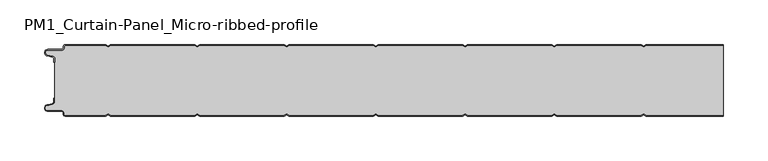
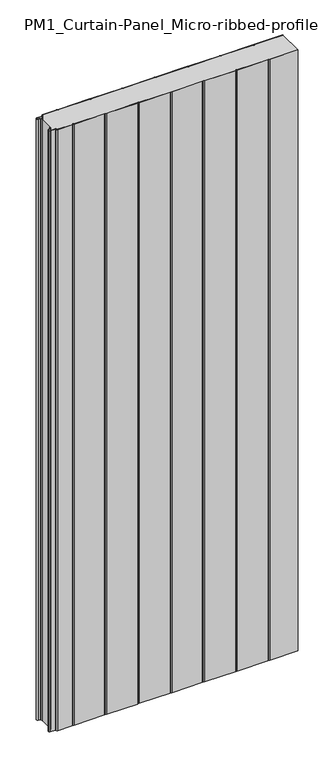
"""IFC4 building model written with IfcOpenShell, lengths in millimetres: plate geometry, PM1_Curtain-Panel_Micro-ribbed-profile : ACH_PM1_Stone-wool-Panel_80M."""

from ifc_helpers import new_model, si_unit, point, frame_2d, origin, origin_with_axes, place, context, project, spatial, polyline, circle_curve, trimmed, segment, composite_curve, outline, extrude, source, transform, mapped, element, save


def pm1_curtain_panel_micro_ribbed_profile_8fb5820e(model_context):
    return source(origin(), model_context, "Body", "SweptSolid", [
        extrude(outline(composite_curve([segment(trimmed(circle_curve(frame_2d((-377.0119739, -15.878557)), 2.0), [point((-375.0119739, -15.878557))], [point((-376.5620718, -13.9298169))], True, "CARTESIAN"), True, "CONTINUOUS"), segment(polyline([(-376.5620718, -13.9298169), (-382.7217978, -12.507732)]), True, "CONTINUOUS"), segment(trimmed(circle_curve(frame_2d((-381.9119739, -9.0)), 3.6), [point((-382.7217978, -12.507732))], [point((-381.9119739, -5.4))], False, "CARTESIAN"), True, "CONTINUOUS"), segment(polyline([(-381.9119739, -5.4), (-366.4119739, -5.4)]), True, "CONTINUOUS"), segment(trimmed(circle_curve(frame_2d((-366.4119739, -3.4)), 2.0), [point((-366.4119739, -5.4))], [point((-364.4119739, -3.4))], True, "CARTESIAN"), True, "CONTINUOUS"), segment(polyline([(-364.4119739, -3.4), (-364.4119739, -2.0)]), True, "CONTINUOUS"), segment(trimmed(circle_curve(frame_2d((-362.4119739, -2.0)), 2.0), [point((-364.4119739, -2.0))], [point((-362.4119739, 0.0))], False, "CARTESIAN"), True, "CONTINUOUS"), segment(polyline([(-362.4119739, 0.0), (-317.1119734, 0.0), (-314.4119739, -1.5588455), (-311.7119745, 0.0), (-217.1119734, 0.0), (-214.4119739, -1.5588455), (-211.7119745, 0.0), (-117.1119734, 0.0), (-114.4119739, -1.5588455), (-111.7119745, 0.0), (-17.1119734, 0.0), (-14.4119739, -1.5588455), (-11.7119745, 0.0), (82.8880266, 0.0), (85.5880261, -1.5588455), (88.2880255, 0.0), (182.8880266, 0.0), (185.5880261, -1.5588455), (188.2880255, 0.0), (282.8880266, 0.0), (285.5880261, -1.5588455), (288.2880255, 0.0), (375.0119739, 0.0), (375.0119739, -0.8), (288.5023849, -0.8), (285.5880261, -2.482606), (282.6736672, -0.8), (188.5023849, -0.8), (185.5880261, -2.482606), (182.6736672, -0.8), (88.5023849, -0.8), (85.5880261, -2.482606), (82.6736672, -0.8), (-11.4976151, -0.8), (-14.4119739, -2.482606), (-17.3263328, -0.8), (-111.4976151, -0.8), (-114.4119739, -2.482606), (-117.3263328, -0.8), (-211.4976151, -0.8), (-214.4119739, -2.482606), (-217.3263328, -0.8), (-311.4976151, -0.8), (-314.4119739, -2.482606), (-317.3263328, -0.8), (-362.4119739, -0.8)]), True, "CONTINUOUS"), segment(trimmed(circle_curve(frame_2d((-362.4119739, -2.0)), 1.2), [point((-362.4119739, -0.8))], [point((-363.6119739, -2.0))], True, "CARTESIAN"), True, "CONTINUOUS"), segment(polyline([(-363.6119739, -2.0), (-363.6119739, -3.4)]), True, "CONTINUOUS"), segment(trimmed(circle_curve(frame_2d((-366.4119739, -3.4)), 2.8), [point((-363.6119739, -3.4))], [point((-366.4119739, -6.2))], False, "CARTESIAN"), True, "CONTINUOUS"), segment(polyline([(-366.4119739, -6.2), (-381.9119739, -6.2)]), True, "CONTINUOUS"), segment(trimmed(circle_curve(frame_2d((-381.9119739, -9.0)), 2.8), [point((-381.9119739, -6.2))], [point((-382.541837, -11.7282362))], True, "CARTESIAN"), True, "CONTINUOUS"), segment(polyline([(-382.541837, -11.7282362), (-376.3821109, -13.150321)]), True, "CONTINUOUS"), segment(trimmed(circle_curve(frame_2d((-377.0119739, -15.878557)), 2.8), [point((-376.3821109, -13.150321))], [point((-374.2119739, -15.878557))], False, "CARTESIAN"), True, "CONTINUOUS"), segment(polyline([(-374.2119739, -15.878557), (-374.2119739, -20.0), (-375.0119739, -20.0), (-375.0119739, -15.878557)]), True, "CONTINUOUS")], self_intersect=False)), origin_with_axes(), (0.0, 0.0, 1.0), 1945.7507136),
        extrude(outline(composite_curve([segment(polyline([(-374.2119739, -64.1214426), (-374.2119739, -15.8785573)]), True, "CONTINUOUS"), segment(trimmed(circle_curve(frame_2d((-377.0119739, -15.8785573)), 2.8), [point((-374.2119739, -15.8785573))], [point((-376.3821109, -13.1503212))], True, "CARTESIAN"), True, "CONTINUOUS"), segment(polyline([(-376.3821109, -13.1503212), (-382.541837, -11.7282362)]), True, "CONTINUOUS"), segment(trimmed(circle_curve(frame_2d((-381.911974, -9.0)), 2.8), [point((-382.541837, -11.7282362))], [point((-381.911974, -6.2))], False, "CARTESIAN"), True, "CONTINUOUS"), segment(polyline([(-381.911974, -6.2), (-366.411974, -6.2)]), True, "CONTINUOUS"), segment(trimmed(circle_curve(frame_2d((-366.411974, -3.4)), 2.8), [point((-366.411974, -6.2))], [point((-363.611974, -3.4))], True, "CARTESIAN"), True, "CONTINUOUS"), segment(polyline([(-363.611974, -3.4), (-363.611974, -2.0)]), True, "CONTINUOUS"), segment(trimmed(circle_curve(frame_2d((-362.411974, -2.0)), 1.2), [point((-363.611974, -2.0))], [point((-362.411974, -0.8))], False, "CARTESIAN"), True, "CONTINUOUS"), segment(polyline([(-362.411974, -0.8), (-317.3263329, -0.8), (-314.411974, -2.482606), (-311.4976152, -0.8), (-217.3263329, -0.8), (-214.411974, -2.482606), (-211.4976152, -0.8), (-117.3263329, -0.8), (-114.411974, -2.482606), (-111.4976152, -0.8), (-17.3263329, -0.8), (-14.411974, -2.482606), (-11.4976152, -0.8), (82.6736671, -0.8), (85.588026, -2.482606), (88.5023848, -0.8), (182.6736671, -0.8), (185.588026, -2.482606), (188.5023848, -0.8), (282.6736671, -0.8), (285.588026, -2.482606), (288.5023848, -0.8), (375.0119739, -0.8), (375.0119739, -79.2), (288.5023848, -79.2), (285.588026, -77.517394), (282.6736671, -79.2), (188.5023848, -79.2), (185.588026, -77.517394), (182.6736671, -79.2), (88.5023848, -79.2), (85.588026, -77.517394), (82.6736671, -79.2), (-11.4976152, -79.2), (-14.411974, -77.517394), (-17.3263329, -79.2), (-111.4976152, -79.2), (-114.411974, -77.517394), (-117.3263329, -79.2), (-211.4976152, -79.2), (-214.411974, -77.517394), (-217.3263329, -79.2), (-311.4976152, -79.2), (-314.411974, -77.517394), (-317.3263329, -79.2), (-362.411974, -79.2)]), True, "CONTINUOUS"), segment(trimmed(circle_curve(frame_2d((-362.411974, -78.0)), 1.2), [point((-362.411974, -79.2))], [point((-363.611974, -78.0))], False, "CARTESIAN"), True, "CONTINUOUS"), segment(polyline([(-363.611974, -78.0), (-363.611974, -76.6)]), True, "CONTINUOUS"), segment(trimmed(circle_curve(frame_2d((-366.411974, -76.6)), 2.8), [point((-363.611974, -76.6))], [point((-366.411974, -73.8))], True, "CARTESIAN"), True, "CONTINUOUS"), segment(polyline([(-366.411974, -73.8), (-381.911974, -73.8)]), True, "CONTINUOUS"), segment(trimmed(circle_curve(frame_2d((-381.911974, -71.0)), 2.8), [point((-381.911974, -73.8))], [point((-382.541837, -68.2717638))], False, "CARTESIAN"), True, "CONTINUOUS"), segment(polyline([(-382.541837, -68.2717638), (-376.3821109, -66.8496788)]), True, "CONTINUOUS"), segment(trimmed(circle_curve(frame_2d((-377.0119739, -64.1214426)), 2.8), [point((-376.3821109, -66.8496788))], [point((-374.2119739, -64.1214426))], True, "CARTESIAN"), True, "CONTINUOUS")], self_intersect=False)), origin_with_axes(), (0.0, 0.0, 1.0), 1945.7507136),
        extrude(outline(composite_curve([segment(polyline([(-375.0119739, -64.121443), (-375.0119739, -60.0), (-374.2119739, -60.0), (-374.2119739, -64.121443)]), True, "CONTINUOUS"), segment(trimmed(circle_curve(frame_2d((-377.0119739, -64.121443)), 2.8), [point((-374.2119739, -64.121443))], [point((-376.3821109, -66.8496792))], False, "CARTESIAN"), True, "CONTINUOUS"), segment(polyline([(-376.3821109, -66.8496792), (-382.5418369, -68.271764)]), True, "CONTINUOUS"), segment(trimmed(circle_curve(frame_2d((-381.9119739, -71.0)), 2.8), [point((-382.5418369, -68.271764))], [point((-381.9119739, -73.8))], True, "CARTESIAN"), True, "CONTINUOUS"), segment(polyline([(-381.9119739, -73.8), (-366.4119739, -73.8)]), True, "CONTINUOUS"), segment(trimmed(circle_curve(frame_2d((-366.4119739, -76.6)), 2.8), [point((-366.4119739, -73.8))], [point((-363.6119739, -76.6))], False, "CARTESIAN"), True, "CONTINUOUS"), segment(polyline([(-363.6119739, -76.6), (-363.6119739, -78.0)]), True, "CONTINUOUS"), segment(trimmed(circle_curve(frame_2d((-362.4119739, -78.0)), 1.2), [point((-363.6119739, -78.0))], [point((-362.4119739, -79.2))], True, "CARTESIAN"), True, "CONTINUOUS"), segment(polyline([(-362.4119739, -79.2), (-317.3263328, -79.2), (-314.4119739, -77.517394), (-311.4976151, -79.2), (-217.3263328, -79.2), (-214.4119739, -77.517394), (-211.4976151, -79.2), (-117.3263328, -79.2), (-114.4119739, -77.517394), (-111.4976151, -79.2), (-17.3263328, -79.2), (-14.4119739, -77.517394), (-11.4976151, -79.2), (82.6736672, -79.2), (85.5880261, -77.517394), (88.5023849, -79.2), (182.6736672, -79.2), (185.5880261, -77.517394), (188.5023849, -79.2), (282.6736672, -79.2), (285.5880261, -77.517394), (288.5023849, -79.2), (375.0119739, -79.2), (375.0119739, -80.0), (288.2880255, -80.0), (285.5880261, -78.4411545), (282.8880266, -80.0), (188.2880255, -80.0), (185.5880261, -78.4411545), (182.8880266, -80.0), (88.2880255, -80.0), (85.5880261, -78.4411545), (82.8880266, -80.0), (-11.7119745, -80.0), (-14.4119739, -78.4411545), (-17.1119734, -80.0), (-111.7119745, -80.0), (-114.4119739, -78.4411545), (-117.1119734, -80.0), (-211.7119745, -80.0), (-214.4119739, -78.4411545), (-217.1119734, -80.0), (-311.7119745, -80.0), (-314.4119739, -78.4411545), (-317.1119734, -80.0), (-362.4119739, -80.0)]), True, "CONTINUOUS"), segment(trimmed(circle_curve(frame_2d((-362.4119739, -78.0)), 2.0), [point((-362.4119739, -80.0))], [point((-364.4119739, -78.0))], False, "CARTESIAN"), True, "CONTINUOUS"), segment(polyline([(-364.4119739, -78.0), (-364.4119739, -76.6)]), True, "CONTINUOUS"), segment(trimmed(circle_curve(frame_2d((-366.4119739, -76.6)), 2.0), [point((-364.4119739, -76.6))], [point((-366.4119739, -74.6))], True, "CARTESIAN"), True, "CONTINUOUS"), segment(polyline([(-366.4119739, -74.6), (-381.9119739, -74.6)]), True, "CONTINUOUS"), segment(trimmed(circle_curve(frame_2d((-381.9119739, -71.0)), 3.6), [point((-381.9119739, -74.6))], [point((-382.7217979, -67.4922678))], False, "CARTESIAN"), True, "CONTINUOUS"), segment(polyline([(-382.7217979, -67.4922678), (-376.5620718, -66.070183)]), True, "CONTINUOUS"), segment(trimmed(circle_curve(frame_2d((-377.0119739, -64.121443)), 2.0), [point((-376.5620718, -66.070183))], [point((-375.0119739, -64.121443))], True, "CARTESIAN"), True, "CONTINUOUS")], self_intersect=False)), origin_with_axes(), (0.0, 0.0, 1.0), 1945.7507136),
    ])


if __name__ == "__main__":
    model = new_model("IFC4")
    model_context = context("Model", 3, world=origin())
    ifc_project = project(units=[si_unit("LENGTHUNIT", "METRE", prefix="MILLI")], contexts=[model_context])
    site = spatial("IfcSite", under=ifc_project)
    building = spatial("IfcBuilding", under=site)
    placement = place(None, origin())
    pm1_curtain_panel_micro_ribbed_profile_shape = pm1_curtain_panel_micro_ribbed_profile_8fb5820e(model_context)
    element("IfcPlate", 1, ObjectType="PM1_Curtain-Panel_Micro-ribbed-profile : ACH_PM1_Stone-wool-Panel_80M", at=placement, inside=building, context=model_context, shape_type="MappedRepresentation", body=[
        mapped(pm1_curtain_panel_micro_ribbed_profile_shape, transform((0.0, 0.0, 0.0), x_axis=(1.0, 0.0, 0.0), y_axis=(0.0, 1.0, 0.0), z_axis=(0.0, 0.0, 1.0))),
    ])
    save(model, "model.ifc")
